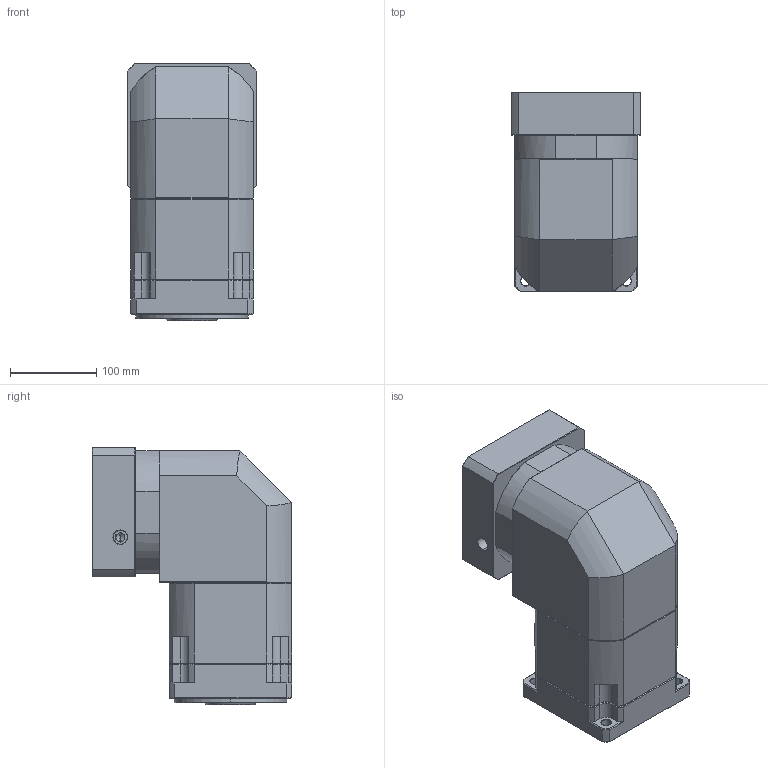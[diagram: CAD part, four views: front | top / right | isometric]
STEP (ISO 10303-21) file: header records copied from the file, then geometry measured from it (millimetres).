
FILE_DESCRIPTION (( 'STEP AP214' ), '1' );
FILE_NAME ('ZBR142A-K35-L2-P2-32-130-165-M10.step', '2023-09-02T07:16:35', ( '' ), ( '' ), 'SwSTEP 2.0', 'SolidWorks 2016', '' );
FILE_SCHEMA (( 'AUTOMOTIVE_DESIGN' ));
Length unit declared in the file: millimetre
Products named in the file (1): ZBR142A-K35-L2-P2-32-130-165-M10
Bounding box: 150 x 231 x 297.7 mm (x, y, z)
Volume: 6100940.9 mm3; surface area: 414269.4 mm2
Topology: 6 solids, 6 shells, 2253 faces, 5893 edges, 3746 vertices
Faces by surface type: plane 1113, bspline 394, cylinder 387, cone 326, torus 33
Entity records: 123641 total; most frequent: CARTESIAN_POINT 46677, ORIENTED_EDGE 11730, DIRECTION 9296, EDGE_CURVE 5865, VECTOR 3844, LINE 3844, VERTEX_POINT 3746, AXIS2_PLACEMENT_3D 2726
